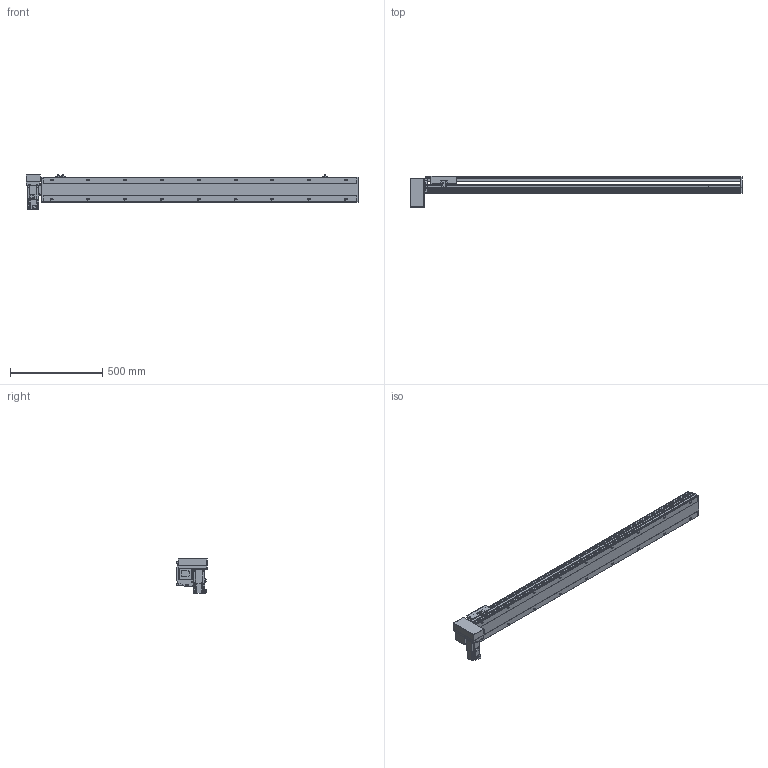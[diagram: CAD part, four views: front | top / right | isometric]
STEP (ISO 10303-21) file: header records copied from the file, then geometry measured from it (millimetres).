
FILE_DESCRIPTION(/* description */ ('STEP AP214'),/* implementation_level */ '2;1');
FILE_NAME(/* name */ 'PBS140S-P40-S1450-RD-T40-C1-N(0)',/* time_stamp */ '2022-06-09T02:43:42+02:00',/* author */ ('License CC BY-ND 4.0'),/* organization */ ('CADENAS'),/* preprocessor_version */ 'ST-DEVELOPER v18.102',/* originating_system */ 'PARTsolutions',/* authorisation */ ' ');
FILE_SCHEMA (('AUTOMOTIVE_DESIGN {1 0 10303 214 3 1 1}'));
Length unit declared in the file: millimetre
Products named in the file (7): PBS140S-P40-S1450-RD-T40-C1-N(0); PBS140S_sensor; PBS140S_plant; PBS140S_sliser; T40-p1; PBS140ST-RD_motors; PBS140S-S1450()_body
Assembly tree (8 placements, depth 2):
  PBS140S-P40-S1450-RD-T40-C1-N(0)
    PBS140S_sensor  x3
    PBS140S_plant
    PBS140S_sliser
    T40-p1
    PBS140ST-RD_motors
    PBS140S-S1450()_body
Bounding box: 1804 x 172.5 x 189.7 mm (x, y, z)
Volume: 9090074.4 mm3; surface area: 1553830.8 mm2
Topology: 8 solids, 8 shells, 1115 faces, 2951 edges, 1931 vertices
Faces by surface type: plane 708, cylinder 353, cone 44, sphere 8, torus 2
Full cylindrical faces by diameter (mm): 3.242 x4, 4 x2, 4.134 x4, 4.4 x8, 4.5 x2, 4.8 x4, 4.917 x26, 5.5 x7, 6 x2, 7 x20, 7.5 x8, 8 x12, 8.5 x4, 10.5 x18, 14 x1, 30 x2, 50 x2
Entity records: 31954 total; most frequent: CARTESIAN_POINT 5928, DIRECTION 5418, ORIENTED_EDGE 5122, EDGE_CURVE 2561, AXIS2_PLACEMENT_3D 1889, VERTEX_POINT 1777, LINE 1640, VECTOR 1640
